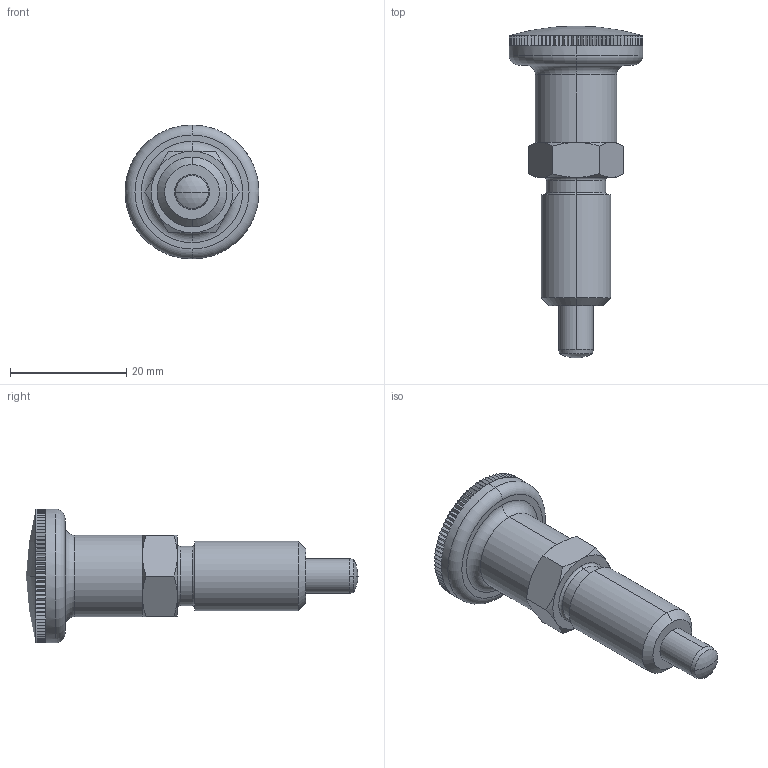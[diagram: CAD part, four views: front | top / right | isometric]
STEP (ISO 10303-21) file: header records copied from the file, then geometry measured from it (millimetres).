
FILE_DESCRIPTION (( 'STEP AP203' ), '1' );
FILE_NAME ('Default.step', '2011-03-25T12:20:11', ( 'Wixroyd' ), ( 'Wixroyd' ), 'SwSTEP 2.0', 'SolidWorks 2009', '' );
FILE_SCHEMA (( 'CONFIG_CONTROL_DESIGN' ));
Length unit declared in the file: millimetre
Products named in the file (4): Default; Part1; Part2; Part3
Assembly tree (3 placements, depth 2):
  Default
    Part2
    Part3
    Part1
Bounding box: 23 x 57 x 23 mm (x, y, z)
Volume: 7826.1 mm3; surface area: 5625.9 mm2
Topology: 3 solids, 3 shells, 354 faces, 814 edges, 472 vertices
Faces by surface type: plane 305, cylinder 21, cone 16, torus 8, sphere 4
Entity records: 10376 total; most frequent: DIRECTION 1870, CARTESIAN_POINT 1790, ORIENTED_EDGE 1628, EDGE_CURVE 814, AXIS2_PLACEMENT_3D 720, VERTEX_POINT 472, VECTOR 430, LINE 430
